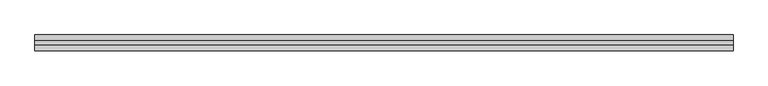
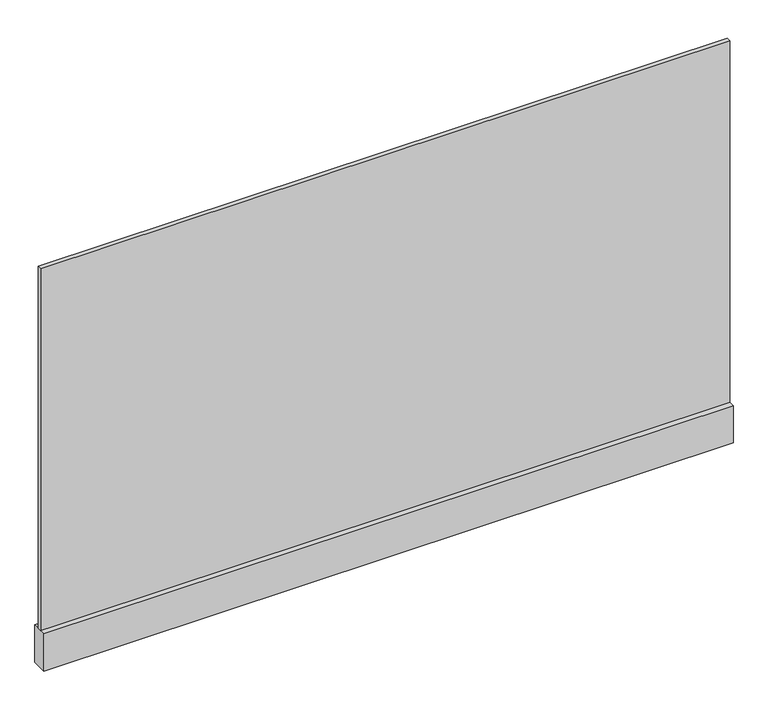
"""IFC4 building model written with IfcOpenShell, lengths in millimetres: plate geometry, r パネル FIX 下框付 : 框 H100."""

from ifc_helpers import new_model, si_unit, frame, origin, origin_with_axes, place, context, project, spatial, polyline, outline, extrude, source, transform, mapped, element, save


def plate_9f48129f(model_context):
    return source(origin(), model_context, "Body", "SweptSolid", [
        extrude(outline(polyline([(-878.3333333, 5.0), (878.3333333, 5.0), (878.3333333, -5.0), (-878.3333333, -5.0), (-878.3333333, 5.0)])), frame((0.0, 0.0, 100.0), z_axis=(0.0, 0.0, 1.0), x_axis=(1.0, 0.0, 0.0)), (0.0, 0.0, 1.0), 975.0),
        extrude(outline(polyline([(-878.3333333, 20.0), (878.3333333, 20.0), (878.3333333, -20.0), (-878.3333333, -20.0), (-878.3333333, 20.0)])), origin_with_axes(), (0.0, 0.0, 1.0), 100.0),
    ])


if __name__ == "__main__":
    model = new_model("IFC4")
    model_context = context("Model", 3, world=origin())
    ifc_project = project(units=[si_unit("LENGTHUNIT", "METRE", prefix="MILLI")], contexts=[model_context])
    site = spatial("IfcSite", under=ifc_project)
    building = spatial("IfcBuilding", under=site)
    placement = place(None, origin())
    plate_shape = plate_9f48129f(model_context)
    element("IfcPlate", 1, ObjectType="r パネル FIX 下框付 : 框 H100", at=placement, inside=building, context=model_context, shape_type="MappedRepresentation", body=[
        mapped(plate_shape, transform((0.0, 0.0, 0.0), x_axis=(1.0, 0.0, 0.0), y_axis=(0.0, 1.0, 0.0), z_axis=(0.0, 0.0, 1.0))),
    ])
    save(model, "model.ifc")
